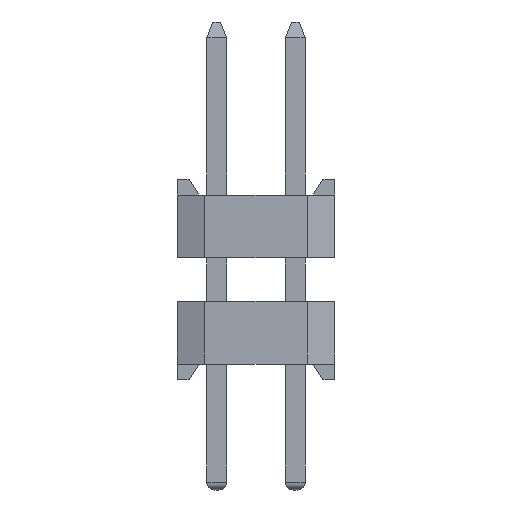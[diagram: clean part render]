
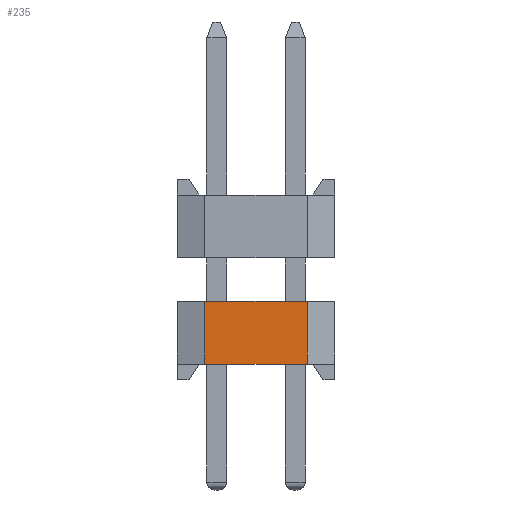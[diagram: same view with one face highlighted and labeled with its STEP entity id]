
A CAD part, left-side view. The second image highlights one B-rep face of the part: STEP entity #235.
In plain terms, the highlighted planar face has unit normal (-1, 0, 0).
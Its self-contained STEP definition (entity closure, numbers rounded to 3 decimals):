
#235=ADVANCED_FACE('',(#1339),#819,.T.);
#819=PLANE('',#10992);
#1339=FACE_OUTER_BOUND('',#1939,.T.);
#1939=EDGE_LOOP('',(#2740,#2741,#2742,#2743));
#2740=ORIENTED_EDGE('',*,*,#6732,.T.);
#2741=ORIENTED_EDGE('',*,*,#6733,.F.);
#2742=ORIENTED_EDGE('',*,*,#6734,.F.);
#2743=ORIENTED_EDGE('',*,*,#6650,.F.);
#5682=VERTEX_POINT('',#14566);
#5683=VERTEX_POINT('',#14567);
#5756=VERTEX_POINT('',#14724);
#5757=VERTEX_POINT('',#14726);
#6650=EDGE_CURVE('',#5682,#5683,#8166,.T.);
#6732=EDGE_CURVE('',#5682,#5756,#8248,.T.);
#6733=EDGE_CURVE('',#5757,#5756,#8249,.T.);
#6734=EDGE_CURVE('',#5683,#5757,#8250,.T.);
#8166=LINE('',#14565,#9618);
#8248=LINE('',#14723,#9700);
#8249=LINE('',#14725,#9701);
#8250=LINE('',#14727,#9702);
#9618=VECTOR('',#11735,1.);
#9700=VECTOR('',#11821,1.);
#9701=VECTOR('',#11822,1.);
#9702=VECTOR('',#11823,1.);
#10992=AXIS2_PLACEMENT_3D('',#14728,#11824,#11825);
#11735=DIRECTION('',(0.,-1.,0.));
#11821=DIRECTION('',(0.,0.,-1.));
#11822=DIRECTION('',(0.,1.,0.));
#11823=DIRECTION('',(0.,0.,-1.));
#11824=DIRECTION('',(-1.,0.,0.));
#11825=DIRECTION('',(0.,0.,1.));
#14565=CARTESIAN_POINT('',(0.,3.,1.6));
#14566=CARTESIAN_POINT('',(0.,3.3,1.6));
#14567=CARTESIAN_POINT('',(0.,0.7,1.6));
#14723=CARTESIAN_POINT('',(0.,3.3,0.));
#14724=CARTESIAN_POINT('',(0.,3.3,0.));
#14725=CARTESIAN_POINT('',(0.,3.,0.));
#14726=CARTESIAN_POINT('',(0.,0.7,0.));
#14727=CARTESIAN_POINT('',(0.,0.7,0.));
#14728=CARTESIAN_POINT('',(0.,3.,0.));
